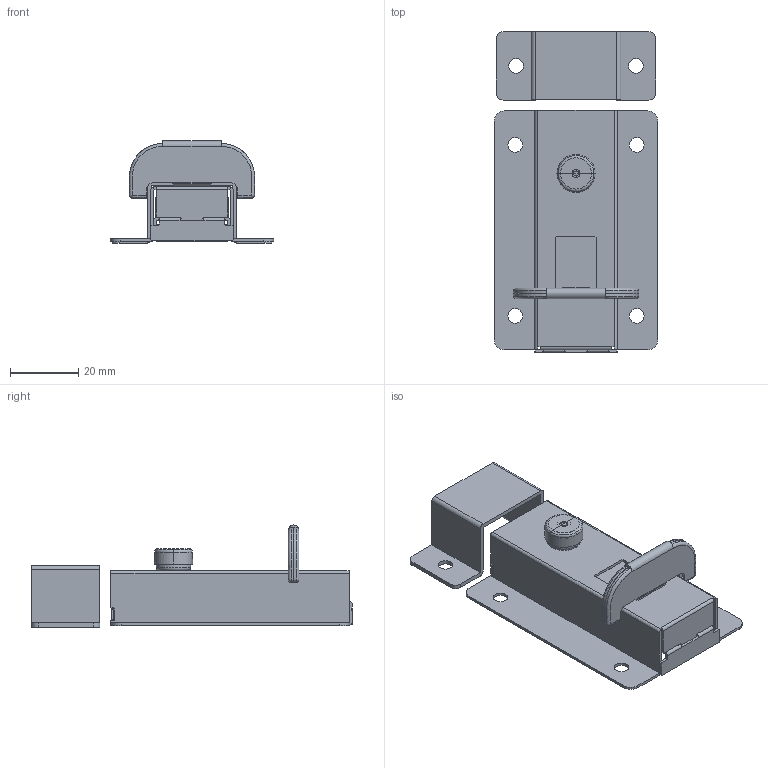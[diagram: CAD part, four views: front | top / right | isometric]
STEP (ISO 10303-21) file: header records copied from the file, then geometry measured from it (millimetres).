
FILE_DESCRIPTION(/* description */ (''),/* implementation_level */ '2;1');
FILE_NAME(/* name */ 'CX102-A',/* time_stamp */ '2025-05-14T16:00:57+08:00',/* author */ (''),/* organization */ (''),/* preprocessor_version */ 'ST-DEVELOPER v19.2',/* originating_system */ 'Rhino 8.5',/* authorisation */ '');
FILE_SCHEMA (('CONFIG_CONTROL_DESIGN'));
Length unit declared in the file: millimetre
Products named in the file (2): Document; 图块 01
Bounding box: 47.8 x 93.8 x 29.85 mm (x, y, z)
Volume: 9476.1 mm3; surface area: 30044.6 mm2
Topology: 9 solids, 12 shells, 476 faces, 1317 edges, 839 vertices
Faces by surface type: plane 261, cylinder 167, bspline 48
Full cylindrical faces by diameter (mm): 0.009 x1
Entity records: 19944 total; most frequent: CARTESIAN_POINT 9504, ORIENTED_EDGE 2597, EDGE_CURVE 1311, DIRECTION 1139, B_SPLINE_CURVE_WITH_KNOTS 947, VERTEX_POINT 839, AXIS2_PLACEMENT_3D 783, EDGE_LOOP 505
